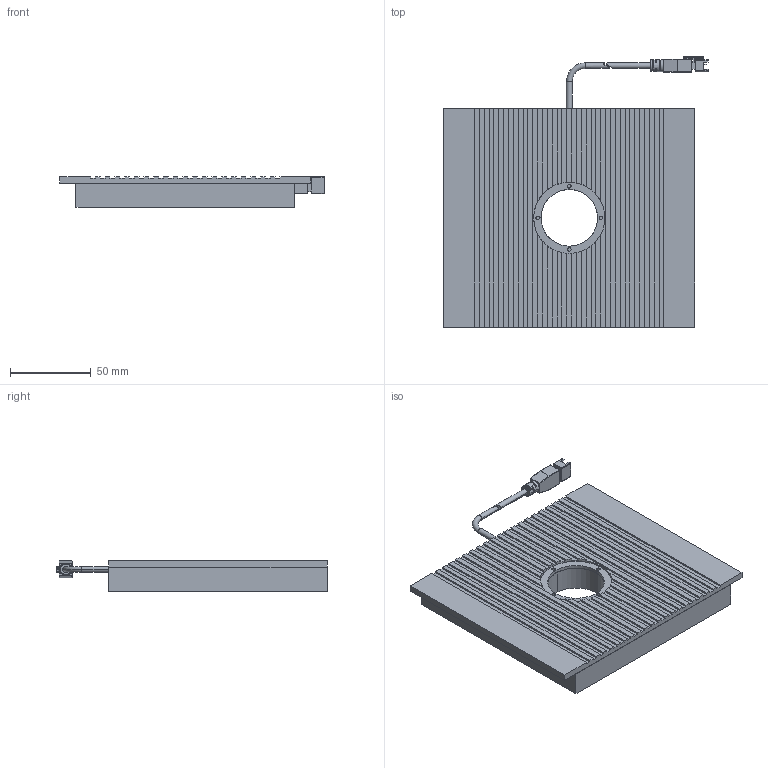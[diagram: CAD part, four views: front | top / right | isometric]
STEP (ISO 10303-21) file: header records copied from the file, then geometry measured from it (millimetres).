
FILE_DESCRIPTION (( 'STEP AP203' ), '1' );
FILE_NAME ('CST-KHFS120120Y35-潠眢3D芞.STEP', '2022-07-18T01:33:02', ( 'Windows User' ), ( 'P R C' ), 'SwSTEP 2.0', 'SolidWorks 2018', '' );
FILE_SCHEMA (( 'CONFIG_CONTROL_DESIGN' ));
Length unit declared in the file: millimetre
Products named in the file (1): CST-KHFS120120Y35-潠眢3D芞
Bounding box: 163.3 x 166.95 x 19 mm (x, y, z)
Volume: 161392.9 mm3; surface area: 110903.4 mm2
Topology: 6 solids, 6 shells, 416 faces, 1119 edges, 711 vertices
Faces by surface type: plane 279, cylinder 98, bspline 28, torus 8, cone 3
Entity records: 13539 total; most frequent: CARTESIAN_POINT 3105, ORIENTED_EDGE 2206, DIRECTION 2096, EDGE_CURVE 1103, VECTOR 796, LINE 796, VERTEX_POINT 711, AXIS2_PLACEMENT_3D 650
